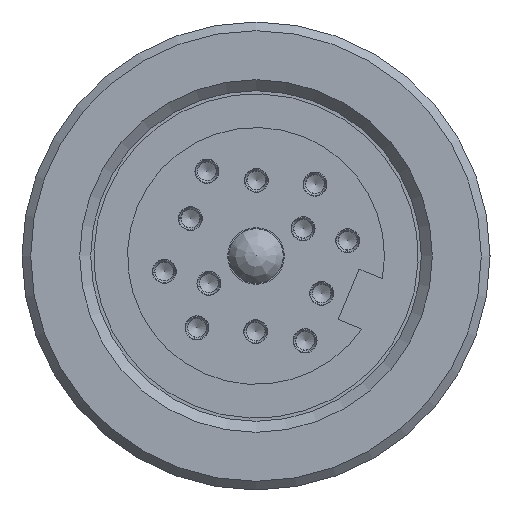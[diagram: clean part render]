
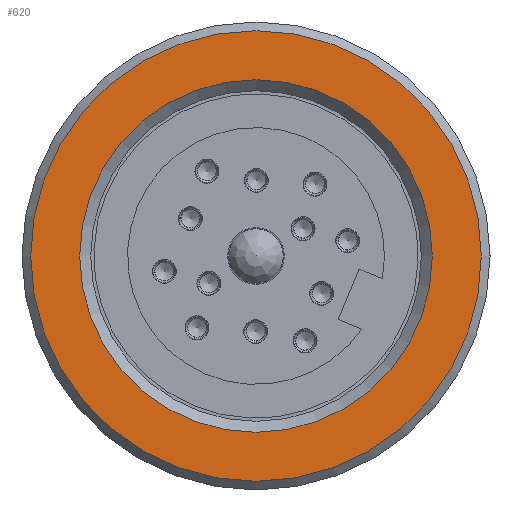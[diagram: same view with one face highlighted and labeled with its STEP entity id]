
A CAD part, left-side view. The second image highlights one B-rep face of the part: STEP entity #620.
In plain terms, the highlighted planar face has unit normal (-1, 0, 0).
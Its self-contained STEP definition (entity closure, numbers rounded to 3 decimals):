
#620=ADVANCED_FACE('',(#977,#978),#854,.T.);
#854=PLANE('',#3813);
#977=FACE_BOUND('',#1129,.T.);
#978=FACE_BOUND('',#1130,.T.);
#1129=EDGE_LOOP('',(#1653));
#1130=EDGE_LOOP('',(#1654));
#1447=CIRCLE('',#3810,10.35);
#1448=CIRCLE('',#3812,8.1);
#1653=ORIENTED_EDGE('',*,*,#3057,.T.);
#1654=ORIENTED_EDGE('',*,*,#3056,.F.);
#2682=VERTEX_POINT('',#5406);
#2683=VERTEX_POINT('',#5409);
#3056=EDGE_CURVE('',#2682,#2682,#1447,.T.);
#3057=EDGE_CURVE('',#2683,#2683,#1448,.T.);
#3810=AXIS2_PLACEMENT_3D('',#5405,#4316,#4317);
#3812=AXIS2_PLACEMENT_3D('',#5408,#4320,#4321);
#3813=AXIS2_PLACEMENT_3D('',#5410,#4322,#4323);
#4316=DIRECTION('',(1.,0.,0.));
#4317=DIRECTION('',(0.,0.,-1.));
#4320=DIRECTION('',(1.,0.,0.));
#4321=DIRECTION('',(0.,0.,1.));
#4322=DIRECTION('',(-1.,0.,0.));
#4323=DIRECTION('',(0.,0.,1.));
#5405=CARTESIAN_POINT('',(12.1,0.,0.));
#5406=CARTESIAN_POINT('',(12.1,0.,-10.35));
#5408=CARTESIAN_POINT('',(12.1,0.,0.));
#5409=CARTESIAN_POINT('',(12.1,0.,8.1));
#5410=CARTESIAN_POINT('',(12.1,0.,0.));
